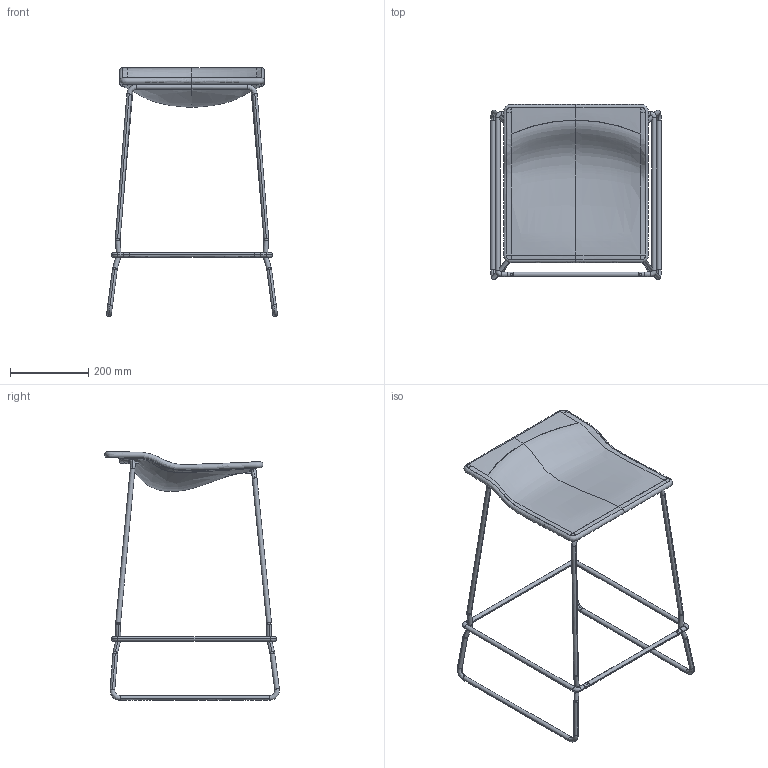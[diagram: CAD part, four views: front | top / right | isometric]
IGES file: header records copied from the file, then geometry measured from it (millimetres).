
Start section: SolidWorks IGES file using NURBS representation for surfaces
Global section: file name: G:\VICCARBE\PRODUCTOS\FAMILIAS 2D - 3D (PRODUCTOS VICCARBE)\3D (IGES + STL + DWG)\01-LAST MINUTE\01-IGES\VICCARBE_LastMinuteM.IGS; native system: SolidWorks 2009; preprocessor: SolidWorks 2009; author: RUBEN; date: 110830.120232; units: millimetre
Bounding box: 436 x 446.58 x 635.53 mm (x, y, z)
Surface area: 569691.5 mm2 (no closed solid volume)
Topology: 0 solids, 0 shells, 228 faces, 3010 edges, 3002 vertices
Faces by surface type: bspline 228
